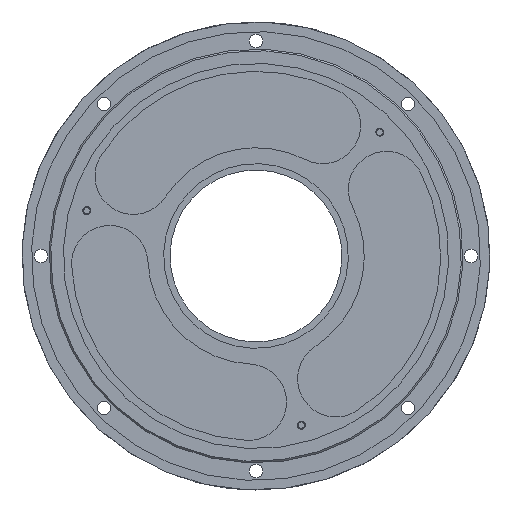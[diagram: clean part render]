
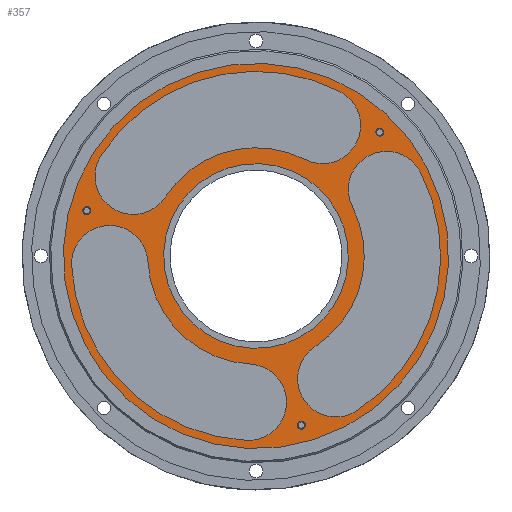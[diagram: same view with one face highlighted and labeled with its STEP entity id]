
A CAD part, front view. The second image highlights one B-rep face of the part: STEP entity #357.
In plain terms, the highlighted planar face has unit normal (0, -1, 0).
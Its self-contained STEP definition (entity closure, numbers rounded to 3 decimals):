
#357=ADVANCED_FACE('',(#621,#622,#623,#624,#625,#626,#627,#540),#1742,.T.);
#540=FACE_OUTER_BOUND('',#830,.F.);
#621=FACE_BOUND('',#823,.F.);
#622=FACE_BOUND('',#824,.F.);
#623=FACE_BOUND('',#825,.F.);
#624=FACE_BOUND('',#826,.F.);
#625=FACE_BOUND('',#827,.F.);
#626=FACE_BOUND('',#828,.F.);
#627=FACE_BOUND('',#829,.F.);
#823=EDGE_LOOP('',(#1536,#1537));
#824=EDGE_LOOP('',(#1538,#1539));
#825=EDGE_LOOP('',(#1540,#1541));
#826=EDGE_LOOP('',(#1542,#1543));
#827=EDGE_LOOP('',(#1544,#1545,#1546,#1547));
#828=EDGE_LOOP('',(#1548,#1549,#1550,#1551));
#829=EDGE_LOOP('',(#1552,#1553,#1554,#1555));
#830=EDGE_LOOP('',(#1556,#1557));
#1536=ORIENTED_EDGE('',*,*,#2421,.F.);
#1537=ORIENTED_EDGE('',*,*,#2415,.F.);
#1538=ORIENTED_EDGE('',*,*,#2404,.F.);
#1539=ORIENTED_EDGE('',*,*,#2403,.F.);
#1540=ORIENTED_EDGE('',*,*,#2392,.F.);
#1541=ORIENTED_EDGE('',*,*,#2391,.F.);
#1542=ORIENTED_EDGE('',*,*,#2380,.F.);
#1543=ORIENTED_EDGE('',*,*,#2379,.F.);
#1544=ORIENTED_EDGE('',*,*,#2080,.F.);
#1545=ORIENTED_EDGE('',*,*,#2079,.F.);
#1546=ORIENTED_EDGE('',*,*,#2081,.F.);
#1547=ORIENTED_EDGE('',*,*,#2078,.T.);
#1548=ORIENTED_EDGE('',*,*,#2085,.F.);
#1549=ORIENTED_EDGE('',*,*,#2084,.F.);
#1550=ORIENTED_EDGE('',*,*,#2083,.F.);
#1551=ORIENTED_EDGE('',*,*,#2082,.T.);
#1552=ORIENTED_EDGE('',*,*,#2087,.F.);
#1553=ORIENTED_EDGE('',*,*,#2086,.F.);
#1554=ORIENTED_EDGE('',*,*,#2089,.F.);
#1555=ORIENTED_EDGE('',*,*,#2088,.T.);
#1556=ORIENTED_EDGE('',*,*,#2422,.T.);
#1557=ORIENTED_EDGE('',*,*,#2416,.T.);
#1742=PLANE('',#3339);
#2078=EDGE_CURVE('',#2955,#2954,#2493,.T.);
#2079=EDGE_CURVE('',#2953,#2952,#2494,.T.);
#2080=EDGE_CURVE('',#2952,#2954,#2495,.T.);
#2081=EDGE_CURVE('',#2955,#2953,#2496,.T.);
#2082=EDGE_CURVE('',#2951,#2950,#2497,.T.);
#2083=EDGE_CURVE('',#2951,#2949,#2498,.T.);
#2084=EDGE_CURVE('',#2949,#2948,#2499,.T.);
#2085=EDGE_CURVE('',#2948,#2950,#2500,.T.);
#2086=EDGE_CURVE('',#2947,#2946,#2501,.T.);
#2087=EDGE_CURVE('',#2946,#2945,#2502,.T.);
#2088=EDGE_CURVE('',#2944,#2945,#2503,.T.);
#2089=EDGE_CURVE('',#2944,#2947,#2504,.T.);
#2379=EDGE_CURVE('',#2755,#2754,#2660,.T.);
#2380=EDGE_CURVE('',#2754,#2755,#2661,.T.);
#2391=EDGE_CURVE('',#2747,#2746,#2668,.T.);
#2392=EDGE_CURVE('',#2746,#2747,#2669,.T.);
#2403=EDGE_CURVE('',#2739,#2738,#2676,.T.);
#2404=EDGE_CURVE('',#2738,#2739,#2677,.T.);
#2415=EDGE_CURVE('',#2731,#2730,#2684,.T.);
#2416=EDGE_CURVE('',#2729,#2728,#2685,.T.);
#2421=EDGE_CURVE('',#2730,#2731,#2686,.T.);
#2422=EDGE_CURVE('',#2728,#2729,#2687,.T.);
#2493=CIRCLE('',#2998,34.);
#2494=CIRCLE('',#2999,58.);
#2495=CIRCLE('',#3000,12.);
#2496=CIRCLE('',#3001,12.);
#2497=CIRCLE('',#3002,34.);
#2498=CIRCLE('',#3003,12.);
#2499=CIRCLE('',#3004,58.);
#2500=CIRCLE('',#3005,12.);
#2501=CIRCLE('',#3006,58.);
#2502=CIRCLE('',#3007,12.);
#2503=CIRCLE('',#3008,34.);
#2504=CIRCLE('',#3009,12.);
#2660=CIRCLE('',#3165,1.25);
#2661=CIRCLE('',#3166,1.25);
#2668=CIRCLE('',#3173,1.25);
#2669=CIRCLE('',#3174,1.25);
#2676=CIRCLE('',#3181,1.25);
#2677=CIRCLE('',#3182,1.25);
#2684=CIRCLE('',#3189,29.);
#2685=CIRCLE('',#3190,60.5);
#2686=CIRCLE('',#3191,29.);
#2687=CIRCLE('',#3192,60.5);
#2728=VERTEX_POINT('',#4423);
#2729=VERTEX_POINT('',#4424);
#2730=VERTEX_POINT('',#4425);
#2731=VERTEX_POINT('',#4426);
#2738=VERTEX_POINT('',#4433);
#2739=VERTEX_POINT('',#4434);
#2746=VERTEX_POINT('',#4441);
#2747=VERTEX_POINT('',#4442);
#2754=VERTEX_POINT('',#4449);
#2755=VERTEX_POINT('',#4450);
#2944=VERTEX_POINT('',#4639);
#2945=VERTEX_POINT('',#4640);
#2946=VERTEX_POINT('',#4641);
#2947=VERTEX_POINT('',#4642);
#2948=VERTEX_POINT('',#4643);
#2949=VERTEX_POINT('',#4644);
#2950=VERTEX_POINT('',#4645);
#2951=VERTEX_POINT('',#4646);
#2952=VERTEX_POINT('',#4647);
#2953=VERTEX_POINT('',#4648);
#2954=VERTEX_POINT('',#4649);
#2955=VERTEX_POINT('',#4650);
#2998=AXIS2_PLACEMENT_3D('',#4651,#3424,#3425);
#2999=AXIS2_PLACEMENT_3D('',#4652,#3426,#3427);
#3000=AXIS2_PLACEMENT_3D('',#4653,#3428,#3429);
#3001=AXIS2_PLACEMENT_3D('',#4654,#3430,#3431);
#3002=AXIS2_PLACEMENT_3D('',#4655,#3432,#3433);
#3003=AXIS2_PLACEMENT_3D('',#4656,#3434,#3435);
#3004=AXIS2_PLACEMENT_3D('',#4657,#3436,#3437);
#3005=AXIS2_PLACEMENT_3D('',#4658,#3438,#3439);
#3006=AXIS2_PLACEMENT_3D('',#4659,#3440,#3441);
#3007=AXIS2_PLACEMENT_3D('',#4660,#3442,#3443);
#3008=AXIS2_PLACEMENT_3D('',#4661,#3444,#3445);
#3009=AXIS2_PLACEMENT_3D('',#4662,#3446,#3447);
#3165=AXIS2_PLACEMENT_3D('',#5746,#3862,#3863);
#3166=AXIS2_PLACEMENT_3D('',#5747,#3864,#3865);
#3173=AXIS2_PLACEMENT_3D('',#5758,#3882,#3883);
#3174=AXIS2_PLACEMENT_3D('',#5759,#3884,#3885);
#3181=AXIS2_PLACEMENT_3D('',#5770,#3902,#3903);
#3182=AXIS2_PLACEMENT_3D('',#5771,#3904,#3905);
#3189=AXIS2_PLACEMENT_3D('',#5782,#3922,#3923);
#3190=AXIS2_PLACEMENT_3D('',#5783,#3924,#3925);
#3191=AXIS2_PLACEMENT_3D('',#5788,#3930,#3931);
#3192=AXIS2_PLACEMENT_3D('',#5789,#3932,#3933);
#3339=AXIS2_PLACEMENT_3D('',#5936,#4226,#4227);
#3424=DIRECTION('',(0.,1.,0.));
#3425=DIRECTION('',(-0.839,0.,0.545));
#3426=DIRECTION('',(0.,1.,0.));
#3427=DIRECTION('',(-0.839,0.,0.545));
#3428=DIRECTION('',(0.,1.,0.));
#3429=DIRECTION('',(0.454,0.,0.891));
#3430=DIRECTION('',(0.,1.,0.));
#3431=DIRECTION('',(0.839,0.,-0.545));
#3432=DIRECTION('',(0.,1.,0.));
#3433=DIRECTION('',(0.891,0.,0.454));
#3434=DIRECTION('',(0.,1.,0.));
#3435=DIRECTION('',(-0.891,0.,-0.454));
#3436=DIRECTION('',(0.,1.,0.));
#3437=DIRECTION('',(0.891,0.,0.454));
#3438=DIRECTION('',(0.,1.,0.));
#3439=DIRECTION('',(0.544,0.,-0.839));
#3440=DIRECTION('',(0.,1.,0.));
#3441=DIRECTION('',(-0.052,0.,-0.999));
#3442=DIRECTION('',(0.,1.,0.));
#3443=DIRECTION('',(-0.999,0.,-0.052));
#3444=DIRECTION('',(0.,1.,0.));
#3445=DIRECTION('',(-0.052,0.,-0.999));
#3446=DIRECTION('',(0.,1.,0.));
#3447=DIRECTION('',(0.053,0.,0.999));
#3862=DIRECTION('',(0.,1.,0.));
#3863=DIRECTION('',(0.5,0.,0.866));
#3864=DIRECTION('',(0.,1.,0.));
#3865=DIRECTION('',(-0.5,0.,-0.866));
#3882=DIRECTION('',(0.,1.,0.));
#3883=DIRECTION('',(0.5,0.,-0.866));
#3884=DIRECTION('',(0.,1.,0.));
#3885=DIRECTION('',(-0.5,0.,0.866));
#3902=DIRECTION('',(0.,1.,0.));
#3903=DIRECTION('',(-1.,0.,0.));
#3904=DIRECTION('',(0.,1.,0.));
#3905=DIRECTION('',(1.,0.,0.));
#3922=DIRECTION('',(0.,1.,0.));
#3923=DIRECTION('',(-0.991,0.,-0.131));
#3924=DIRECTION('',(0.,1.,0.));
#3925=DIRECTION('',(-0.991,0.,-0.131));
#3930=DIRECTION('',(0.,1.,0.));
#3931=DIRECTION('',(0.991,0.,0.131));
#3932=DIRECTION('',(0.,1.,0.));
#3933=DIRECTION('',(0.991,0.,0.131));
#4226=DIRECTION('',(0.,-1.,0.));
#4227=DIRECTION('',(-0.131,0.,0.991));
#4423=CARTESIAN_POINT('',(9.982,-91.2,136.897));
#4424=CARTESIAN_POINT('',(-109.982,-91.2,121.103));
#4425=CARTESIAN_POINT('',(-21.248,-91.2,132.785));
#4426=CARTESIAN_POINT('',(-78.752,-91.2,125.215));
#4433=CARTESIAN_POINT('',(-9.859,-91.2,167.891));
#4434=CARTESIAN_POINT('',(-12.359,-91.2,167.891));
#4441=CARTESIAN_POINT('',(-103.751,-91.2,144.318));
#4442=CARTESIAN_POINT('',(-102.501,-91.2,142.153));
#4449=CARTESIAN_POINT('',(-36.39,-91.2,74.792));
#4450=CARTESIAN_POINT('',(-35.14,-91.2,76.957));
#4639=CARTESIAN_POINT('',(-51.779,-91.2,95.047));
#4640=CARTESIAN_POINT('',(-83.953,-91.2,127.221));
#4641=CARTESIAN_POINT('',(-107.921,-91.2,125.965));
#4642=CARTESIAN_POINT('',(-53.035,-91.2,71.079));
#4643=CARTESIAN_POINT('',(-18.411,-91.2,80.357));
#4644=CARTESIAN_POINT('',(1.678,-91.2,155.331));
#4645=CARTESIAN_POINT('',(-31.482,-91.2,100.485));
#4646=CARTESIAN_POINT('',(-19.706,-91.2,144.436));
#4647=CARTESIAN_POINT('',(-23.669,-91.2,180.678));
#4648=CARTESIAN_POINT('',(-98.643,-91.2,160.589));
#4649=CARTESIAN_POINT('',(-34.564,-91.2,159.294));
#4650=CARTESIAN_POINT('',(-78.515,-91.2,147.518));
#4651=CARTESIAN_POINT('',(-50.,-91.2,129.));
#4652=CARTESIAN_POINT('',(-50.,-91.2,129.));
#4653=CARTESIAN_POINT('',(-29.116,-91.2,169.986));
#4654=CARTESIAN_POINT('',(-88.579,-91.2,154.053));
#4655=CARTESIAN_POINT('',(-50.,-91.2,129.));
#4656=CARTESIAN_POINT('',(-9.014,-91.2,149.884));
#4657=CARTESIAN_POINT('',(-50.,-91.2,129.));
#4658=CARTESIAN_POINT('',(-24.942,-91.2,90.424));
#4659=CARTESIAN_POINT('',(-50.,-91.2,129.));
#4660=CARTESIAN_POINT('',(-95.937,-91.2,126.593));
#4661=CARTESIAN_POINT('',(-50.,-91.2,129.));
#4662=CARTESIAN_POINT('',(-52.413,-91.2,83.063));
#5746=CARTESIAN_POINT('',(-35.765,-91.2,75.874));
#5747=CARTESIAN_POINT('',(-35.765,-91.2,75.874));
#5758=CARTESIAN_POINT('',(-103.126,-91.2,143.235));
#5759=CARTESIAN_POINT('',(-103.126,-91.2,143.235));
#5770=CARTESIAN_POINT('',(-11.109,-91.2,167.891));
#5771=CARTESIAN_POINT('',(-11.109,-91.2,167.891));
#5782=CARTESIAN_POINT('',(-50.,-91.2,129.));
#5783=CARTESIAN_POINT('',(-50.,-91.2,129.));
#5788=CARTESIAN_POINT('',(-50.,-91.2,129.));
#5789=CARTESIAN_POINT('',(-50.,-91.2,129.));
#5936=CARTESIAN_POINT('',(-103.127,-91.2,59.763));
